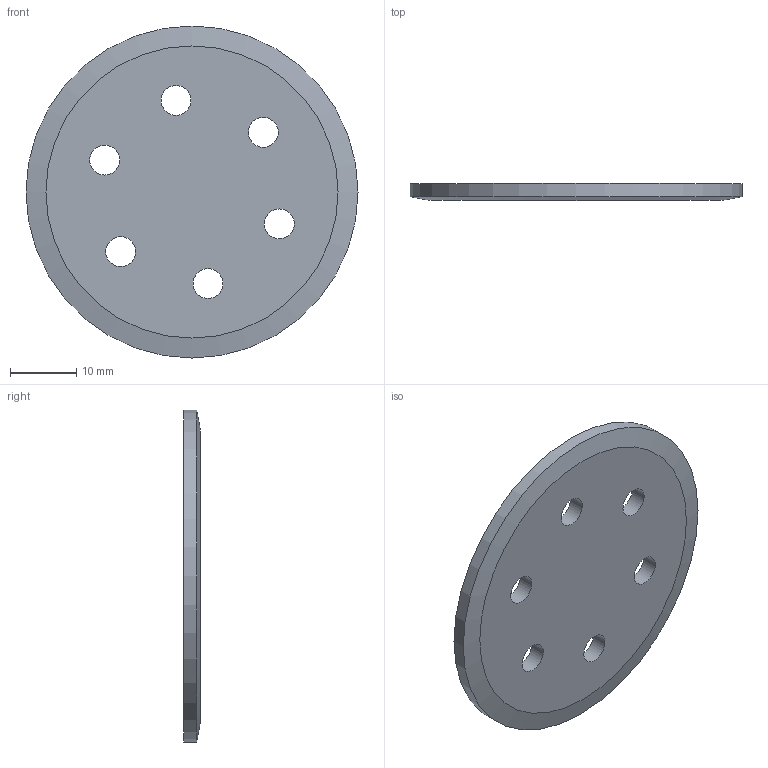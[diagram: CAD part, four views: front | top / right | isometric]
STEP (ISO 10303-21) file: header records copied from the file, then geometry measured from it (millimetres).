
FILE_DESCRIPTION(/* description */ (''),/* implementation_level */ '2;1');
FILE_NAME(/* name */ 'Hip pulley outer flange v1.step',/* time_stamp */ '2025-10-21T12:09:05-07:00',/* author */ (''),/* organization */ (''),/* preprocessor_version */ 'ST-DEVELOPER v20.1',/* originating_system */ 'Autodesk Translation Framework v14.17.0.0',/* authorisation */ '');
FILE_SCHEMA (('AUTOMOTIVE_DESIGN { 1 0 10303 214 3 1 1 }'));
Length unit declared in the file: millimetre
Products named in the file (1): Hip pulley outer flange
Bounding box: 50 x 2.5 x 50 mm (x, y, z)
Volume: 4550.5 mm3; surface area: 4264.6 mm2
Topology: 1 solids, 1 shells, 10 faces, 24 edges, 16 vertices
Faces by surface type: cylinder 7, plane 2, cone 1
Full cylindrical faces by diameter (mm): 4.5 x6, 50 x1
Entity records: 361 total; most frequent: DIRECTION 62, CARTESIAN_POINT 51, ORIENTED_EDGE 48, AXIS2_PLACEMENT_3D 27, EDGE_CURVE 24, EDGE_LOOP 22, CIRCLE 16, VERTEX_POINT 16
